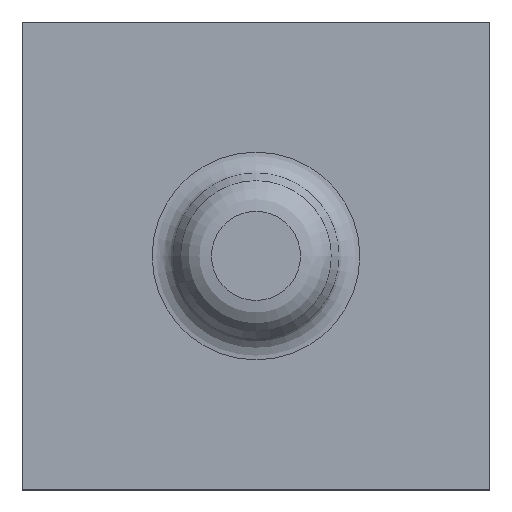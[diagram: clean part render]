
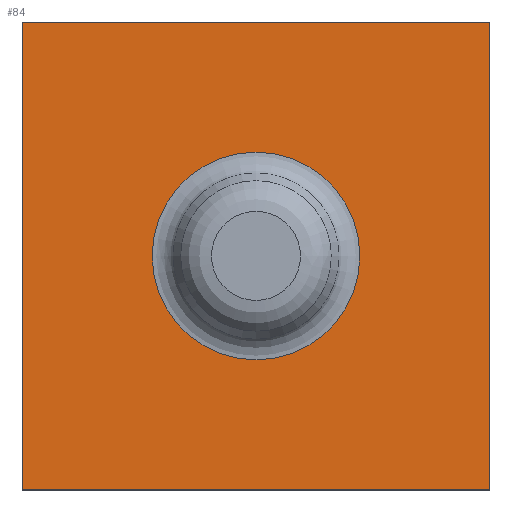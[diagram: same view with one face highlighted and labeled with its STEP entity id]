
A CAD part, top view. The second image highlights one B-rep face of the part: STEP entity #84.
In plain terms, the highlighted planar face has unit normal (0, 0, 1).
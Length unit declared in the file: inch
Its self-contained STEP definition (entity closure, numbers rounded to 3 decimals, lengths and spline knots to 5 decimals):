
#84=ADVANCED_FACE('',(#115,#116),#117,.F.);
#115=FACE_OUTER_BOUND('',#151,.T.);
#116=FACE_BOUND('',#152,.T.);
#117=PLANE('',#153);
#151=EDGE_LOOP('',(#208,#209,#210,#211));
#152=EDGE_LOOP('',(#212));
#153=AXIS2_PLACEMENT_3D('',#213,#214,#215);
#208=ORIENTED_EDGE('',*,*,#256,.T.);
#209=ORIENTED_EDGE('',*,*,#257,.T.);
#210=ORIENTED_EDGE('',*,*,#258,.T.);
#211=ORIENTED_EDGE('',*,*,#259,.T.);
#212=ORIENTED_EDGE('',*,*,#255,.F.);
#213=CARTESIAN_POINT('',(-1.24065,-0.51097,0.982));
#214=DIRECTION('',(0.,0.0,-1.0));
#215=DIRECTION('',(-1.0,0.0,0.));
#255=EDGE_CURVE('',#286,#286,#287,.T.);
#256=EDGE_CURVE('',#288,#289,#290,.T.);
#257=EDGE_CURVE('',#289,#291,#292,.T.);
#258=EDGE_CURVE('',#291,#293,#294,.T.);
#259=EDGE_CURVE('',#293,#288,#295,.T.);
#286=VERTEX_POINT('',#326);
#287=CIRCLE('',#327,0.44378);
#288=VERTEX_POINT('',#328);
#289=VERTEX_POINT('',#329);
#290=LINE('',#330,#331);
#291=VERTEX_POINT('',#332);
#292=LINE('',#333,#334);
#293=VERTEX_POINT('',#335);
#294=LINE('',#336,#337);
#295=LINE('',#338,#339);
#326=CARTESIAN_POINT('',(-1.68443,-0.51097,0.982));
#327=AXIS2_PLACEMENT_3D('',#373,#374,#375);
#328=CARTESIAN_POINT('',(-2.24065,0.48903,0.982));
#329=CARTESIAN_POINT('',(-2.24065,-1.51097,0.982));
#330=CARTESIAN_POINT('',(-2.24065,-0.51097,0.982));
#331=VECTOR('',#376,1.0);
#332=CARTESIAN_POINT('',(-0.24065,-1.51097,0.982));
#333=CARTESIAN_POINT('',(-1.24065,-1.51097,0.982));
#334=VECTOR('',#377,1.0);
#335=CARTESIAN_POINT('',(-0.24065,0.48903,0.982));
#336=CARTESIAN_POINT('',(-0.24065,-0.51097,0.982));
#337=VECTOR('',#378,1.0);
#338=CARTESIAN_POINT('',(-1.24065,0.48903,0.982));
#339=VECTOR('',#379,1.0);
#373=CARTESIAN_POINT('',(-1.24065,-0.51097,0.982));
#374=DIRECTION('',(0.,-0.0,1.0));
#375=DIRECTION('',(1.0,0.0,0.));
#376=DIRECTION('',(-0.0,-1.0,0.0));
#377=DIRECTION('',(1.0,0.0,0.));
#378=DIRECTION('',(0.0,1.0,0.0));
#379=DIRECTION('',(-1.0,0.0,0.));
